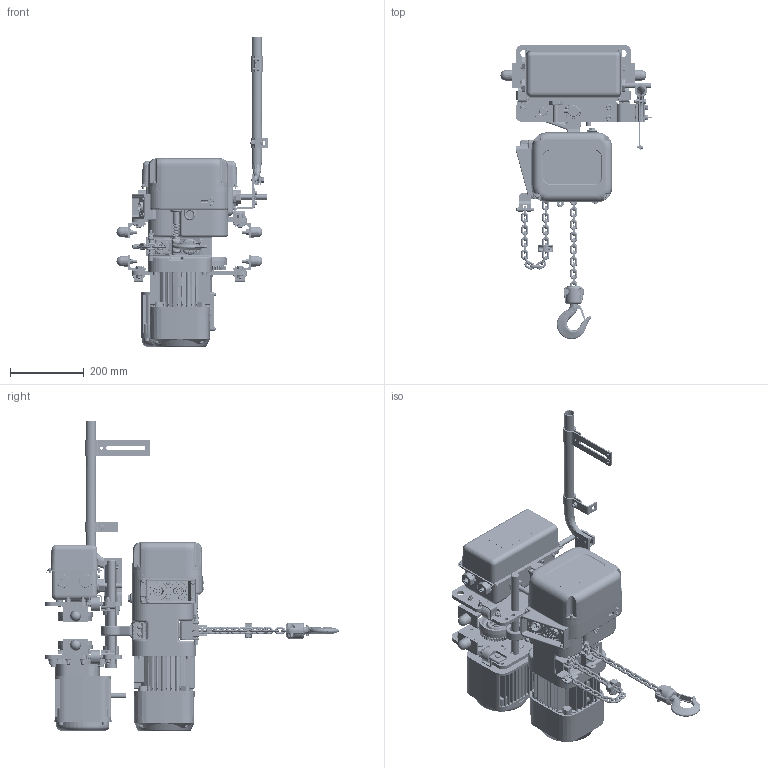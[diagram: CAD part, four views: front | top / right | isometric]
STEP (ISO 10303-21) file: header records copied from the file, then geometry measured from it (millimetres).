
FILE_DESCRIPTION (( 'STEP AP214' ), '1' );
FILE_NAME ('NER2M005L-L.STEP', '2026-08-05T20:01:29', ( '' ), ( '' ), 'SwSTEP 2.0', 'SolidWorks 2026', '' );
FILE_SCHEMA (( 'AUTOMOTIVE_DESIGN' ));
Length unit declared in the file: millimetre
Products named in the file (138): J1WS011-20060_Rectangular section spring washer BS 4464 - 16 (Type B)_5.STEP; 90912134.STEP; 9012513_1.STEP; ECP5924AD1.STEP; 9009414-5_9009414-5_1.STEP; 60704.STEP; ENDS2C.STEP; MR1DS9248.STEP; MR1DS9501.STEP; ER2CS2564_9.STEP; ER2CS9015_3.STEP; 90912151_B18.3.1M - 6 x 1.0 x 40 Hex SHCS -- 40CHX.STEP; LCER2005NP_3.STEP; MR1DS9491.STEP; ER1BS9535_9.STEP; MR1DS9324.STEP; ER2CL9107_ER2CL9107_2.STEP; MR1DS9421.STEP; MS1101010 SNAP RING_B27.7M - 3BM1-42.STEP; ER2CL9105_2.STEP; ES855003_2.STEP; ES558003_10.STEP; MR1DS1493.STEP; 9093328_9093328.STEP; M6FE010S9113.STEP; LCER2005NP-1.STEP; MR2DS1759_for (N)ERM.STEP; ER2CS9103_3.STEP; 9091295_9091295.STEP; KITO-WASHER.STEP; MR1DS1301.STEP; MR1DS1211.STEP; E3S112003_11.STEP; MS554010.STEP; 9093424_9093424.STEP; J1BG10504022_J1BG10504022_6.STEP; 9009446_9009446.STEP; MR1DS9496.STEP; ER2CS9338_3.STEP; ECP5924AB1.STEP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
Assembly tree (344 placements, depth 7):
  NER2M005L-L
    NER2M005L-L.STEP
      MR2005L_4_ FLANGE.STEP
        MR1DS5201.STEP
          MR1DS9201.STEP
          MR1DS9203.STEP  x2
          M6FE010S9113.STEP
        MR1DS5202.STEP
          MR1DS9202.STEP
          MR1DS9203.STEP  x2
          M6FE010S9114.STEP
        MR1DS1211_Reversed.STEP  x2
          MR1DS1211.STEP
          MR1DS9218.STEP
        MR1DS1211-0.STEP  x2
          MR1DS1211.STEP
          MR1DS9218.STEP
        MS1101010.STEP  x2
          M6SE010S9101.STEP
          radial ball bearing_68_am_PreviewCfg.STEP
          MS1101010 SNAP RING_PreviewCfg.STEP
        MS1102010.STEP  x2
          M6SE010S9102.STEP
          MS1101010 BEARING_AFBMA 20.1 - 03-15 - Full,SI,NC,Full_68.STEP
          MS1101010 SNAP RING_B27.7M - 3BM1-42.STEP
        6077801.STEP
          MR1DS93112.STEP
          MR1DS9324.STEP
          MR1DS9325.STEP
          MR1DS1301.STEP
          90912134.STEP  x4
          MS554010.STEP  x4
        70130XX_7013001.STEP
          MR2DS2811.STEP
            ECP5924AH.STEP
            MS527010.STEP
            MR2DI1811.STEP
            ES558003_10.STEP  x4
          MR2DS1768_for (N)ERM.STEP
            60704.STEP
              ECP5924AA1.STEP
              ECP5924AB1.STEP
              ECP5924AD1.STEP
              KITO-WASHER.STEP
              ECP5924AC1_ECP5924AC.STEP
            ECP6916AA.STEP
          MR2DS1759_for (N)ERM.STEP
            60704.STEP
              ECP5924AA1.STEP
              ECP5924AB1.STEP
              ECP5924AD1.STEP
              KITO-WASHER.STEP
              ECP5924AC1_ECP5924AC.STEP
            ECP6912AA.STEP
          60704.STEP
            ECP5924AA1.STEP
            ECP5924AB1.STEP
            ECP5924AD1.STEP
            KITO-WASHER.STEP
            ECP5924AC1_ECP5924AC.STEP
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Bounding box: 410.83 x 799.87 x 841.55 mm (x, y, z)
Volume: 15301746.4 mm3; surface area: 3078113.8 mm2
Topology: 382 solids, 382 shells, 13316 faces, 34249 edges, 21682 vertices
Faces by surface type: cylinder 4722, plane 4354, cone 1822, torus 1356, bspline 905, sphere 157
Entity records: 351903 total; most frequent: CARTESIAN_POINT 140657, DIRECTION 41067, ORIENTED_EDGE 40668, EDGE_CURVE 20334, AXIS2_PLACEMENT_3D 15836, VERTEX_POINT 13200, LINE 9395, VECTOR 9395
